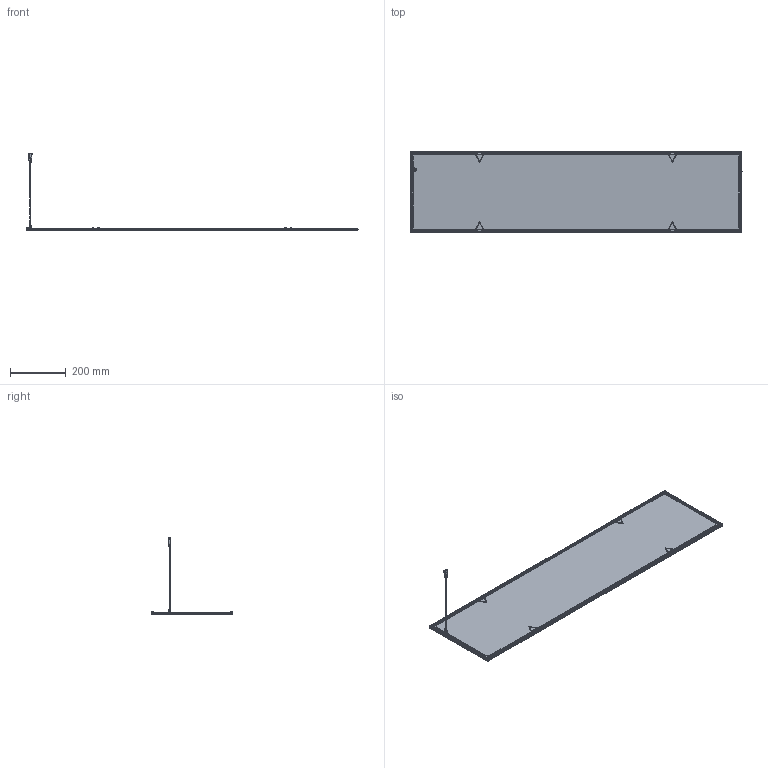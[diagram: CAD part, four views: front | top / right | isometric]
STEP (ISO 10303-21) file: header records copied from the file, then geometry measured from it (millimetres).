
FILE_DESCRIPTION((''),'2;1');
FILE_NAME('15014505Z_DMEC_1195MM-ELA-G2SNC','2021-04-29T16:46:13',('Juergen.Hrach'),(''),'CREO PARAMETRIC BY PTC INC, 2019164','CREO PARAMETRIC BY PTC INC, 2019164','');
FILE_SCHEMA(('CONFIG_CONTROL_DESIGN'));
Products named in the file (1): 15014505Z_DMEC_1195MM-ELA-G2SNC
Bounding box: 1195.01 x 295 x 280 mm (x, y, z)
Volume: 1915293.2 mm3; surface area: 1751667 mm2
Topology: 1 solids, 79 shells, 3788 faces, 10050 edges, 6504 vertices
Faces by surface type: bspline 3231, revolution 557
Entity records: 324768 total; most frequent: CARTESIAN_POINT 247811, ORIENTED_EDGE 18858, EDGE_CURVE 9918, DIRECTION 7782, VERTEX_POINT 6503, VECTOR 5941, LINE 5941, EDGE_LOOP 4297
